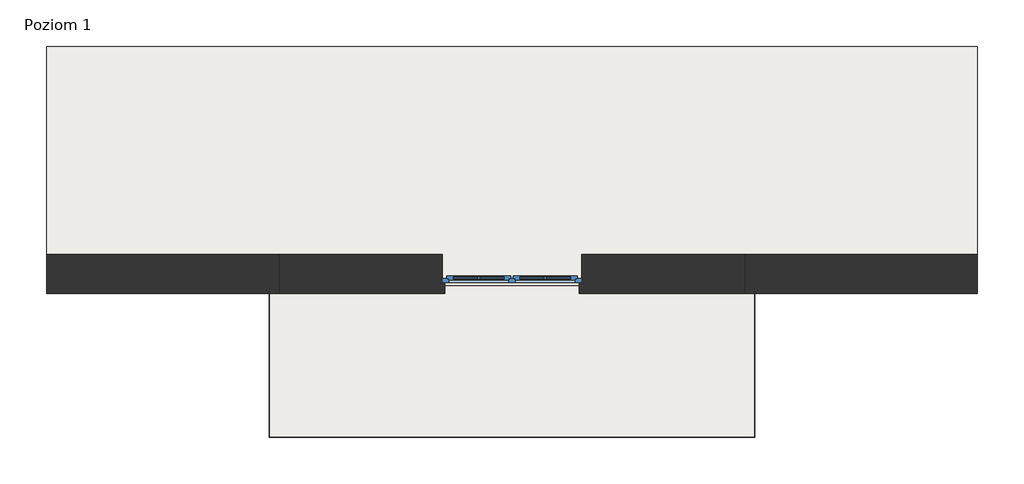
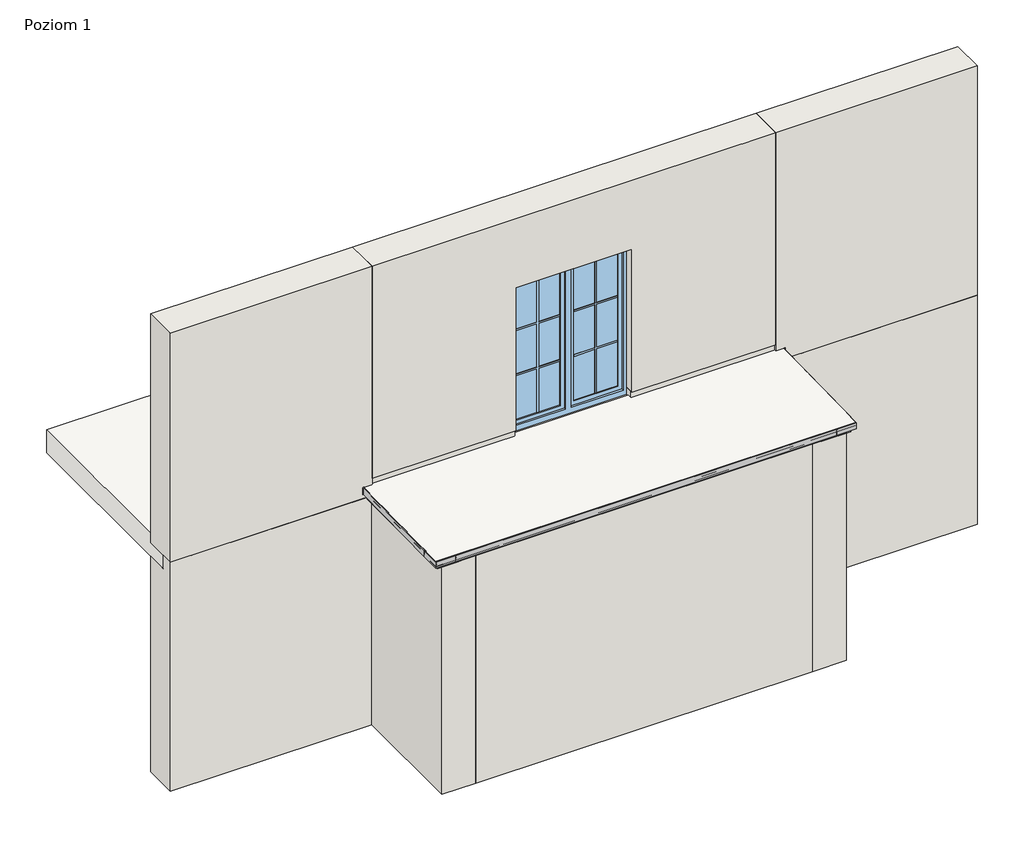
# One storey, part 1 of 4: 10 walls, 5 proxies, 3 slabs, 1 window.
"""IFC4 building model written with IfcOpenShell, lengths in millimetres."""

from ifc_helpers import new_model, si_unit, frame, origin, place, context, project, spatial, polyline, outline, extrude, faceted_brep, transform, mapped, element, save
from components import generic_models_5153c576, generic_models_dae349cf, w30r_plus_abaad994, w30r_plus_64295fbf, w30r_plus_e1cf01b4, window_150x200_12b14935

model = new_model("IFC4")

# Units and contexts
model_context = context("Model", 3, world=origin())
ifc_project = project(units=[si_unit("LENGTHUNIT", "METRE", prefix="MILLI")], contexts=[model_context])

# Site, building, storey
site = spatial("IfcSite", under=ifc_project)
building = spatial("IfcBuilding", under=site)
storey = spatial("IfcBuildingStorey", under=building, Name="Poziom 1", Elevation=5.490868)

# Proxies
placement = place(None, origin())
generic_models_shape = generic_models_5153c576(model_context)
element("IfcBuildingElementProxy", 1, Name="Odbojniki - OPW30R PLUS : Odbojniki - OPW30R PLUS", ObjectType="Odbojniki - OPW30R PLUS : Odbojniki - OPW30R PLUS", at=placement, inside=storey, context=model_context, shape_type="MappedRepresentation", body=[
    mapped(generic_models_shape, transform((-105717.2365026, 45262.9874672, -13.9856488), x_axis=(0.0, -0.9998161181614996, -0.01917628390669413), y_axis=(1.0, 0.0, 0.0), z_axis=(0.0, -0.01917628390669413, 0.9998161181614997))),
])
generic_models_2_shape = generic_models_dae349cf(model_context)
element("IfcBuildingElementProxy", 2, Name="Odbojniki - OPW30R PLUS : Odbojniki - OPW30R PLUS", ObjectType="Odbojniki - OPW30R PLUS : Odbojniki - OPW30R PLUS", at=placement, inside=storey, context=model_context, shape_type="MappedRepresentation", body=[
    mapped(generic_models_2_shape, transform((-100591.2365026, 45262.9874672, -13.9856488), x_axis=(0.0, -0.9998161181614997, -0.019176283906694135), y_axis=(1.0000000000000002, 0.0, 0.0), z_axis=(0.0, -0.01917628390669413, 0.9998161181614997))),
])
w30r_plus_shape = w30r_plus_abaad994(model_context)
element("IfcBuildingElementProxy", 3, Name="W30R PLUS Profil okapowy prosty z rynną : W30R PLUS", ObjectType="W30R PLUS Profil okapowy prosty z rynną : W30R PLUS", at=placement, inside=storey, context=model_context, shape_type="MappedRepresentation", body=[
    mapped(w30r_plus_shape, transform((-105717.2365026, 43758.2483344, -42.0182641), x_axis=(1.0, 0.0, 0.0), y_axis=(0.0, 0.9998161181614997, 0.01917628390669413), z_axis=(0.0, -0.01917628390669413, 0.9998161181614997))),
])
w30r_plus_2_shape = w30r_plus_64295fbf(model_context)
element("IfcBuildingElementProxy", 4, Name="W30R PLUS Profil okapowy prosty z rynną : W30R PLUS", ObjectType="W30R PLUS Profil okapowy prosty z rynną : W30R PLUS", at=placement, inside=storey, context=model_context, shape_type="MappedRepresentation", body=[
    mapped(w30r_plus_2_shape, transform((-105717.2365026, 43958.211558, -38.1830073), x_axis=(0.0, 0.9998161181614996, 0.01917628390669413), y_axis=(-1.0, 0.0, 0.0), z_axis=(0.0, -0.01917628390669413, 0.9998161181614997))),
])
w30r_plus_3_shape = w30r_plus_e1cf01b4(model_context)
element("IfcBuildingElementProxy", 5, Name="W30R PLUS Profil okapowy prosty z rynną : W30R PLUS", ObjectType="W30R PLUS Profil okapowy prosty z rynną : W30R PLUS", at=placement, inside=storey, context=model_context, shape_type="MappedRepresentation", body=[
    mapped(w30r_plus_3_shape, transform((-100591.2365026, 43958.211558, -38.1830073), x_axis=(0.0, 0.9998161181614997, 0.019176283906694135), y_axis=(-1.0000000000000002, 0.0, 0.0), z_axis=(0.0, -0.01917628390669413, 0.9998161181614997))),
])

# Slabs
element("IfcSlab", 6, ObjectType="Taras - wykończenie - posadzka z płytek grubowarstwowych - podkładka P1 - hydroizolacja", at=placement, inside=storey, context=model_context, shape_type="SweptSolid", body=[
    extrude(outline(polyline([(43719.3181945, -42.0186513), (43719.3181945, -7.0186513), (45343.2281419, 23.3813487), (45343.2281419, -11.6186513), (43719.3181945, -42.0186513)])), frame((-105755.7365026, 0.0, 0.0), z_axis=(1.0, 0.0, 0.0), x_axis=(0.0, 1.0, 0.0)), (0.0, 0.0, 1.0), 5203.0),
])
element("IfcSlab", 7, ObjectType="Płyta konstrukcyjna", at=placement, inside=storey, context=model_context, shape_type="SweptSolid", body=[
    extrude(outline(polyline([(45343.2483344, -142.0182641), (43758.2483344, -142.0182641), (43758.2483344, -42.0182641), (45343.2483344, -11.6182641), (45343.2483344, -142.0182641)])), frame((-105717.2365026, 0.0, 0.0), z_axis=(1.0, 0.0, 0.0), x_axis=(0.0, 1.0, 0.0)), (0.0, 0.0, 1.0), 5126.0),
])
element("IfcSlab", 8, ObjectType="Strop", at=placement, inside=storey, context=model_context, shape_type="Brep", body=[
    faceted_brep([(-98154.2365026, 45418.2483344, -294.509132), (-100649.2365026, 45418.2483344, -294.509132), (-101069.2365026, 45418.2483344, -294.509132), (-105239.2365026, 45418.2483344, -294.509132), (-108154.2365026, 45418.2483344, -294.509132), (-108154.2365026, 45683.2483344, -294.509132), (-108154.2365026, 47918.2483344, -294.509132), (-98154.2365026, 47918.2483344, -294.509132), (-98154.2365026, 45683.2483344, -294.509132), (-98154.2365026, 45418.2483344, 5.490868), (-98154.2365026, 47918.2483344, 5.490868), (-108154.2365026, 47918.2483344, 5.490868), (-108154.2365026, 45418.2483344, 5.490868), (-105654.2365026, 45418.2483344, 5.490868), (-103904.2365026, 45418.2483344, 5.490868), (-102404.2365026, 45418.2483344, 5.490868), (-100654.2365026, 45418.2483344, 5.490868), (-98154.2365026, 45418.2483344, -119.509132), (-108154.2365026, 45418.2483344, -119.509132)], [[[0, 1, 2, 3, 4, 5, 6, 7, 8]], [[9, 10, 11, 12, 13, 14, 15, 16]], [[4, 3, 2, 1, 0, 17, 9, 16, 15, 14, 13, 12, 18]], [[6, 5, 4, 18, 12, 11]], [[7, 6, 11, 10]], [[0, 8, 7, 10, 9, 17]]]),
])

# Walls
element("IfcWall", 9, ObjectType="Porotherm P+W 25 + o15 + t", at=placement, inside=storey, context=model_context, shape_type="Brep", body=[
    faceted_brep([(-108154.2365026, 45263.2483344, -3119.509132), (-105659.2365026, 45263.2483344, -3119.509132), (-105239.2365026, 45263.2483344, -3119.509132), (-105239.2365026, 45263.2483344, -142.0182641), (-105449.2365026, 45263.2483344, -142.0182641), (-105449.2365026, 45263.2483344, -119.509132), (-105654.2365026, 45263.2483344, -119.509132), (-108154.2365026, 45263.2483344, -119.509132), (-105239.2365026, 45683.2483344, -3119.509132), (-108154.2365026, 45683.2483344, -3119.509132), (-108154.2365026, 45683.2483344, -294.509132), (-105239.2365026, 45683.2483344, -294.509132), (-105239.2365026, 45403.2483344, -3119.509132), (-105449.2365026, 45403.2483344, -119.509132), (-105449.2365026, 45418.2483344, -119.509132), (-108154.2365026, 45418.2483344, -119.509132), (-108154.2365026, 45418.2483344, -294.509132), (-105239.2365026, 45418.2483344, -294.509132), (-105449.2365026, 45418.2483344, -142.0182641), (-105239.2365026, 45418.2483344, -142.0182641), (-105449.2365026, 45403.2483344, -142.0182641), (-105239.2365026, 45403.2483344, -142.0182641)], [[[0, 1, 2, 3, 4, 5, 6, 7]], [[8, 9, 10, 11]], [[2, 1, 0, 9, 8, 12]], [[7, 6, 5, 13, 14, 15]], [[0, 7, 15, 16, 10, 9]], [[16, 17, 11, 10]], [[17, 16, 15, 14, 18, 19]], [[5, 4, 20, 18, 14, 13]], [[4, 3, 21, 19, 18, 20]], [[3, 2, 12, 8, 11, 17, 19, 21]]]),
])
element("IfcWall", 10, ObjectType="Porotherm P+W 25 + o15 + t", at=placement, inside=storey, context=model_context, shape_type="Brep", body=[
    faceted_brep([(-105659.2365026, 45263.2483344, -3119.509132), (-105659.2365026, 43758.2483344, -3119.509132), (-105659.2365026, 43758.2483344, -142.0182641), (-105659.2365026, 45263.2483344, -142.0182641), (-105239.2365026, 45263.2483344, -3119.509132), (-105239.2365026, 45263.2483344, -142.0182641), (-105239.2365026, 44178.2483344, -142.0182641), (-105239.2365026, 43758.2483344, -142.0182641), (-105239.2365026, 43758.2483344, -3119.509132), (-105239.2365026, 44178.2483344, -3119.509132), (-105449.2365026, 45263.2483344, -142.0182641)], [[[0, 1, 2, 3]], [[4, 5, 6, 7, 8, 9]], [[1, 0, 4, 9, 8]], [[3, 2, 7, 6, 5, 10]], [[2, 1, 8, 7]], [[0, 3, 10, 5, 4]]]),
])
element("IfcWall", 11, ObjectType="Porotherm P+W 25 + o15 + t", at=placement, inside=storey, context=model_context, shape_type="SweptSolid", body=[
    extrude(outline(polyline([(-101069.2365026, 43758.2483344), (-105239.2365026, 43758.2483344), (-105239.2365026, 44178.2483344), (-101069.2365026, 44178.2483344), (-101069.2365026, 43758.2483344)])), frame((0.0, 0.0, -3119.509132), z_axis=(0.0, 0.0, 1.0), x_axis=(1.0, 0.0, 0.0)), (0.0, 0.0, 1.0), 2977.490868),
])
element("IfcWall", 12, ObjectType="Porotherm P+W 25 + o15 + t", at=placement, inside=storey, context=model_context, shape_type="Brep", body=[
    faceted_brep([(-100649.2365026, 43758.2483344, -3119.509132), (-100649.2365026, 45263.2483344, -3119.509132), (-100649.2365026, 45683.2483344, -3119.509132), (-100649.2365026, 45683.2483344, -294.509132), (-100649.2365026, 45683.2483344, -142.0182641), (-100649.2365026, 45418.2483344, -142.0182641), (-100649.2365026, 45263.2483344, -142.0182641), (-100649.2365026, 43758.2483344, -142.0182641), (-101069.2365026, 43758.2483344, -3119.509132), (-101069.2365026, 43758.2483344, -142.0182641), (-101069.2365026, 44178.2483344, -142.0182641), (-101069.2365026, 45403.2483344, -142.0182641), (-101069.2365026, 45418.2483344, -142.0182641), (-101069.2365026, 45683.2483344, -142.0182641), (-101069.2365026, 45683.2483344, -294.509132), (-101069.2365026, 45683.2483344, -3119.509132), (-101069.2365026, 45403.2483344, -3119.509132), (-101069.2365026, 44178.2483344, -3119.509132)], [[[0, 1, 2, 3, 4, 5, 6, 7]], [[8, 9, 10, 11, 12, 13, 14, 15, 16, 17]], [[2, 1, 0, 8, 17, 16, 15]], [[7, 6, 5, 4, 13, 12, 11, 10, 9]], [[0, 7, 9, 8]], [[4, 3, 2, 15, 14, 13]]]),
])
element("IfcWall", 13, ObjectType="Porotherm P+W 25 + o15 + t", at=placement, inside=storey, context=model_context, shape_type="Brep", body=[
    faceted_brep([(-100649.2365026, 45263.2483344, -3119.509132), (-98154.2365026, 45263.2483344, -3119.509132), (-98154.2365026, 45263.2483344, -119.509132), (-100654.2365026, 45263.2483344, -119.509132), (-100859.2365026, 45263.2483344, -119.509132), (-100859.2365026, 45263.2483344, -142.0182641), (-100649.2365026, 45263.2483344, -142.0182641), (-98154.2365026, 45683.2483344, -3119.509132), (-100649.2365026, 45683.2483344, -3119.509132), (-100649.2365026, 45683.2483344, -294.509132), (-98154.2365026, 45683.2483344, -294.509132), (-98154.2365026, 45418.2483344, -294.509132), (-98154.2365026, 45418.2483344, -119.509132), (-100859.2365026, 45418.2483344, -119.509132), (-100859.2365026, 45403.2483344, -119.509132), (-100649.2365026, 45418.2483344, -294.509132), (-100649.2365026, 45418.2483344, -142.0182641), (-100859.2365026, 45418.2483344, -142.0182641), (-100859.2365026, 45403.2483344, -142.0182641)], [[[0, 1, 2, 3, 4, 5, 6]], [[7, 8, 9, 10]], [[1, 0, 8, 7]], [[2, 1, 7, 10, 11, 12]], [[4, 3, 2, 12, 13, 14]], [[15, 11, 10, 9]], [[11, 15, 16, 17, 13, 12]], [[5, 4, 14, 13, 17, 18]], [[6, 5, 18, 17, 16]], [[0, 6, 16, 15, 9, 8]]]),
])
element("IfcWall", 14, ObjectType="Porotherm P+W 25(wieniec 45) + t", at=placement, inside=storey, context=model_context, shape_type="Brep", body=[
    faceted_brep([(-105239.2365026, 45403.2483344, -3119.509132), (-101069.2365026, 45403.2483344, -3119.509132), (-101069.2365026, 45403.2483344, -142.0182641), (-100859.2365026, 45403.2483344, -142.0182641), (-100859.2365026, 45403.2483344, -119.509132), (-105449.2365026, 45403.2483344, -119.509132), (-105449.2365026, 45403.2483344, -142.0182641), (-105239.2365026, 45403.2483344, -142.0182641), (-101069.2365026, 45683.2483344, -3119.509132), (-105239.2365026, 45683.2483344, -3119.509132), (-105239.2365026, 45683.2483344, -294.509132), (-101069.2365026, 45683.2483344, -294.509132), (-100859.2365026, 45418.2483344, -119.509132), (-105449.2365026, 45418.2483344, -119.509132), (-105239.2365026, 45418.2483344, -294.509132), (-101069.2365026, 45418.2483344, -294.509132), (-105239.2365026, 45418.2483344, -142.0182641), (-105449.2365026, 45418.2483344, -142.0182641), (-100859.2365026, 45418.2483344, -142.0182641), (-101069.2365026, 45418.2483344, -142.0182641)], [[[0, 1, 2, 3, 4, 5, 6, 7]], [[8, 9, 10, 11]], [[1, 0, 9, 8]], [[5, 4, 12, 13]], [[14, 15, 11, 10]], [[15, 14, 16, 17, 13, 12, 18, 19]], [[6, 5, 13, 17]], [[7, 6, 17, 16]], [[0, 7, 16, 14, 10, 9]], [[4, 3, 18, 12]], [[3, 2, 19, 18]], [[2, 1, 8, 11, 15, 19]]]),
])
element("IfcWall", 15, ObjectType="Porotherm P+W 25 + o15 + t", at=placement, inside=storey, context=model_context, shape_type="Brep", body=[
    faceted_brep([(-108154.2365026, 45263.2483344, -119.509132), (-105654.2365026, 45263.2483344, -119.509132), (-105654.2365026, 45263.2483344, 105.490868), (-105654.2365026, 45263.2483344, 2880.490868), (-108154.2365026, 45263.2483344, 2880.490868), (-108154.2365026, 45683.2483344, -119.509132), (-108154.2365026, 45683.2483344, 2880.490868), (-105654.2365026, 45683.2483344, 2880.490868), (-105654.2365026, 45683.2483344, 105.490868), (-105654.2365026, 45683.2483344, 5.490868), (-105654.2365026, 45683.2483344, -119.509132), (-108154.2365026, 45418.2483344, -119.509132), (-105654.2365026, 45418.2483344, -119.509132), (-105654.2365026, 45285.2483344, -119.509132)], [[[0, 1, 2, 3, 4]], [[5, 6, 7, 8, 9, 10]], [[1, 0, 11, 5, 10, 12, 13]], [[4, 3, 7, 6]], [[0, 4, 6, 5, 11]], [[1, 13, 12, 10, 9, 8, 7, 3, 2]]]),
])
element("IfcWall", 16, ObjectType="Porotherm P+W 25 + o15 + t", at=placement, inside=storey, context=model_context, shape_type="Brep", body=[
    faceted_brep([(-100654.2365026, 45263.2483344, 2880.490868), (-100654.2365026, 45263.2483344, 105.490868), (-100654.2365026, 45263.2483344, -119.509132), (-98154.2365026, 45263.2483344, -119.509132), (-98154.2365026, 45263.2483344, 2880.490868), (-100654.2365026, 45683.2483344, -119.509132), (-100654.2365026, 45683.2483344, 5.490868), (-100654.2365026, 45683.2483344, 105.490868), (-100654.2365026, 45683.2483344, 2880.490868), (-98154.2365026, 45683.2483344, 2880.490868), (-98154.2365026, 45683.2483344, -119.509132), (-100654.2365026, 45285.2483344, -119.509132), (-100654.2365026, 45418.2483344, -119.509132), (-98154.2365026, 45418.2483344, -119.509132)], [[[0, 1, 2, 3, 4]], [[5, 6, 7, 8, 9, 10]], [[3, 2, 11, 12, 5, 10, 13]], [[4, 3, 13, 10, 9]], [[0, 4, 9, 8]], [[0, 8, 7, 6, 5, 12, 11, 2, 1]]]),
])
element("IfcWall", 17, ObjectType="Porotherm P+W 25 + o12 + pł ceramiczne", at=placement, inside=storey, context=model_context, shape_type="Brep", body=[
    faceted_brep([(-105654.2365026, 45285.2483344, -119.509132), (-100654.2365026, 45285.2483344, -119.509132), (-100654.2365026, 45285.2483344, 105.490868), (-102434.2365026, 45285.2483344, 105.490868), (-102434.2365026, 45285.2483344, 5.490868), (-103874.2365026, 45285.2483344, 5.490868), (-103874.2365026, 45285.2483344, 105.490868), (-105654.2365026, 45285.2483344, 105.490868), (-102404.2365026, 45683.2483344, 105.490868), (-100654.2365026, 45683.2483344, 105.490868), (-100654.2365026, 45683.2483344, 5.490868), (-102404.2365026, 45683.2483344, 5.490868), (-105654.2365026, 45683.2483344, 105.490868), (-103904.2365026, 45683.2483344, 105.490868), (-103904.2365026, 45683.2483344, 5.490868), (-105654.2365026, 45683.2483344, 5.490868), (-105654.2365026, 45418.2483344, -119.509132), (-100654.2365026, 45418.2483344, -119.509132), (-100654.2365026, 45418.2483344, 5.490868), (-102404.2365026, 45383.2483344, 105.490868), (-102434.2365026, 45383.2483344, 105.490868), (-103874.2365026, 45383.2483344, 105.490868), (-103904.2365026, 45383.2483344, 105.490868), (-105654.2365026, 45418.2483344, 5.490868), (-102404.2365026, 45418.2483344, 5.490868), (-103904.2365026, 45418.2483344, 5.490868), (-103904.2365026, 45383.2483344, 5.490868), (-103874.2365026, 45383.2483344, 5.490868), (-102434.2365026, 45383.2483344, 5.490868), (-102404.2365026, 45383.2483344, 5.490868)], [[[0, 1, 2, 3, 4, 5, 6, 7]], [[8, 9, 10, 11]], [[12, 13, 14, 15]], [[1, 0, 16, 17]], [[2, 1, 17, 18, 10, 9]], [[2, 9, 8, 19, 20, 3]], [[12, 7, 6, 21, 22, 13]], [[0, 7, 12, 15, 23, 16]], [[18, 24, 11, 10]], [[25, 23, 15, 14]], [[24, 18, 17, 16, 23, 25]], [[26, 27, 5, 4, 28, 29, 24, 25]], [[27, 26, 22, 21]], [[29, 28, 20, 19]], [[29, 19, 8, 11, 24]], [[22, 26, 25, 14, 13]], [[28, 4, 3, 20]], [[5, 27, 21, 6]]]),
])
element("IfcWall", 18, ObjectType="Porotherm P+W 25 + o15 + t", at=placement, inside=storey, context=model_context, shape_type="Brep", body=[
    faceted_brep([(-100654.2365026, 45263.2483344, 105.490868), (-100654.2365026, 45263.2483344, 2880.490868), (-105654.2365026, 45263.2483344, 2880.490868), (-105654.2365026, 45263.2483344, 105.490868), (-103874.2365026, 45263.2483344, 105.490868), (-103874.2365026, 45263.2483344, 1975.490868), (-102434.2365026, 45263.2483344, 1975.490868), (-102434.2365026, 45263.2483344, 105.490868), (-100654.2365026, 45683.2483344, 2880.490868), (-100654.2365026, 45683.2483344, 105.490868), (-102404.2365026, 45683.2483344, 105.490868), (-102404.2365026, 45683.2483344, 2005.490868), (-103904.2365026, 45683.2483344, 2005.490868), (-103904.2365026, 45683.2483344, 105.490868), (-105654.2365026, 45683.2483344, 105.490868), (-105654.2365026, 45683.2483344, 2880.490868), (-105654.2365026, 45285.2483344, 105.490868), (-103904.2365026, 45383.2483344, 105.490868), (-103874.2365026, 45383.2483344, 105.490868), (-103874.2365026, 45285.2483344, 105.490868), (-100654.2365026, 45285.2483344, 105.490868), (-102434.2365026, 45285.2483344, 105.490868), (-102434.2365026, 45383.2483344, 105.490868), (-102404.2365026, 45383.2483344, 105.490868), (-102404.2365026, 45383.2483344, 2005.490868), (-102434.2365026, 45383.2483344, 1975.490868), (-103904.2365026, 45383.2483344, 2005.490868), (-103874.2365026, 45383.2483344, 1975.490868)], [[[0, 1, 2, 3, 4, 5, 6, 7]], [[8, 9, 10, 11, 12, 13, 14, 15]], [[3, 16, 14, 13, 17, 18, 19, 4]], [[9, 20, 0, 7, 21, 22, 23, 10]], [[1, 0, 20, 9, 8]], [[2, 1, 8, 15]], [[3, 2, 15, 14, 16]], [[24, 11, 10, 23]], [[6, 25, 22, 21, 7]], [[26, 12, 11, 24]], [[26, 24, 23, 22, 25, 27, 18, 17]], [[12, 26, 17, 13]], [[27, 25, 6, 5]], [[27, 5, 4, 19, 18]]]),
])

# Window
window_150x200_shape = window_150x200_12b14935(model_context)
element("IfcWindow", 19, ObjectType="OKNO_2X_W_SZ : 150x200", at=placement, inside=storey, context=model_context, shape_type="MappedRepresentation", body=[
    mapped(window_150x200_shape, transform((-103154.2365026, 45473.2483344, -844.509132), x_axis=(-1.0, 0.0, 0.0), y_axis=(0.0, -1.0, 0.0), z_axis=(0.0, 0.0, 1.0))),
])

save(model, "model.ifc")
